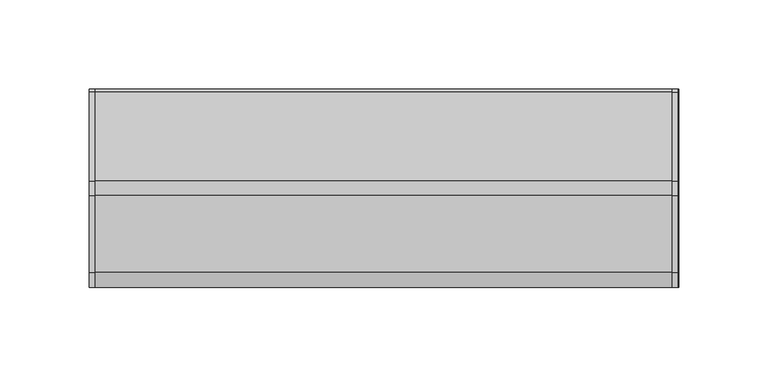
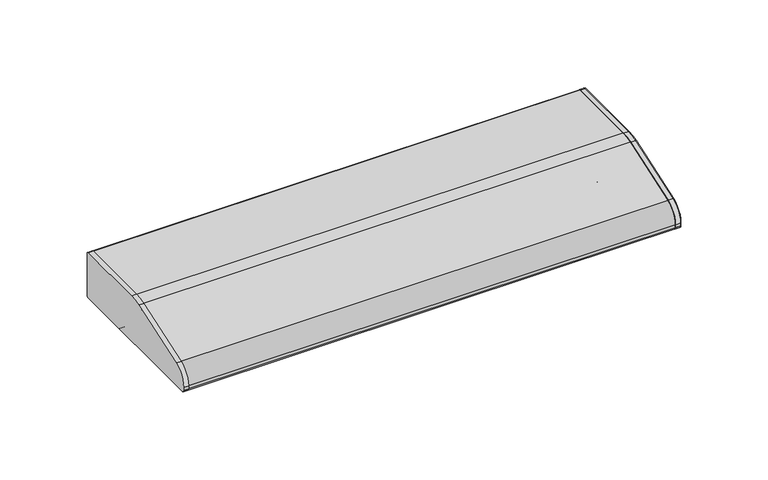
"""IFC4 building model written with IfcOpenShell, lengths in millimetres: light fixture geometry, HermanMiller_SupplementalProducts_G6136_UtilityTaskLight : AO Etho Canvas 24W."""

from ifc_helpers import new_model, si_unit, point, frame, frame_2d, origin, place, context, project, spatial, polyline, circle_curve, trimmed, segment, composite_curve, outline, extrude, source, transform, mapped, element, save


def light_fixture_623b44f8(model_context):
    return source(origin(), model_context, "Body", "SweptSolid", [
        extrude(outline(composite_curve([segment(polyline([(53.975, 1320.8), (-53.975, 1320.8)]), True, "CONTINUOUS"), segment(trimmed(circle_curve(frame_2d((-53.975, 1322.3875)), 1.5875), [point((-53.975, 1320.8))], [point((-55.5625, 1322.3875))], False, "CARTESIAN"), True, "CONTINUOUS"), segment(polyline([(-55.5625, 1322.3875), (-55.5625, 1324.4285714)]), True, "CONTINUOUS"), segment(trimmed(circle_curve(frame_2d((-42.8625, 1324.4285714)), 12.7), [point((-55.5625, 1324.4285714))], [point((-46.9814189, 1336.4420849))], False, "CARTESIAN"), True, "CONTINUOUS"), segment(polyline([(-46.9814189, 1336.4420849), (-4.0045045, 1351.177027)]), True, "CONTINUOUS"), segment(trimmed(circle_curve(frame_2d((4.2333333, 1327.15)), 25.4), [point((-4.0045045, 1351.177027))], [point((4.2333333, 1352.55))], False, "CARTESIAN"), True, "CONTINUOUS"), segment(polyline([(4.2333333, 1352.55), (53.975, 1352.55)]), True, "CONTINUOUS"), segment(trimmed(circle_curve(frame_2d((53.975, 1350.9625)), 1.5875), [point((53.975, 1352.55))], [point((55.5625, 1350.9625))], False, "CARTESIAN"), True, "CONTINUOUS"), segment(polyline([(55.5625, 1350.9625), (55.5625, 1322.3875)]), True, "CONTINUOUS"), segment(trimmed(circle_curve(frame_2d((53.975, 1322.3875)), 1.5875), [point((55.5625, 1322.3875))], [point((53.975, 1320.8))], False, "CARTESIAN"), True, "CONTINUOUS")], self_intersect=False)), frame((161.544, 0.0, 0.0), z_axis=(1.0, 0.0, 0.0), x_axis=(0.0, 1.0, 0.0)), (0.0, 0.0, 1.0), 3.175),
        extrude(outline(composite_curve([segment(trimmed(circle_curve(frame_2d((53.975, 1350.9625)), 1.5875), [point((53.975, 1352.55))], [point((55.5625, 1350.9625))], False, "CARTESIAN"), True, "CONTINUOUS"), segment(polyline([(55.5625, 1350.9625), (55.5625, 1322.3875)]), True, "CONTINUOUS"), segment(trimmed(circle_curve(frame_2d((53.975, 1322.3875)), 1.5875), [point((55.5625, 1322.3875))], [point((53.975, 1320.8))], False, "CARTESIAN"), True, "CONTINUOUS"), segment(polyline([(53.975, 1320.8), (-53.975, 1320.8)]), True, "CONTINUOUS"), segment(trimmed(circle_curve(frame_2d((-53.975, 1322.3875)), 1.5875), [point((-53.975, 1320.8))], [point((-55.5625, 1322.3875))], False, "CARTESIAN"), True, "CONTINUOUS"), segment(polyline([(-55.5625, 1322.3875), (-55.5625, 1324.4285714)]), True, "CONTINUOUS"), segment(trimmed(circle_curve(frame_2d((-42.8625, 1324.4285714)), 12.7), [point((-55.5625, 1324.4285714))], [point((-46.9814189, 1336.4420849))], False, "CARTESIAN"), True, "CONTINUOUS"), segment(polyline([(-46.9814189, 1336.4420849), (-4.0045045, 1351.177027)]), True, "CONTINUOUS"), segment(trimmed(circle_curve(frame_2d((4.2333333, 1327.15)), 25.4), [point((-4.0045045, 1351.177027))], [point((4.2333333, 1352.55))], False, "CARTESIAN"), True, "CONTINUOUS"), segment(polyline([(4.2333333, 1352.55), (53.975, 1352.55)]), True, "CONTINUOUS")], self_intersect=False)), frame((-164.719, 0.0, 0.0), z_axis=(1.0, 0.0, 0.0), x_axis=(0.0, 1.0, 0.0)), (0.0, 0.0, 1.0), 3.175),
        extrude(outline(composite_curve([segment(polyline([(55.5625, 1350.9625), (55.5625, 1322.3875)]), True, "CONTINUOUS"), segment(trimmed(circle_curve(frame_2d((53.975, 1322.3875)), 1.5875), [point((55.5625, 1322.3875))], [point((53.975, 1320.8))], False, "CARTESIAN"), True, "CONTINUOUS"), segment(polyline([(53.975, 1320.8), (19.05, 1320.8)]), True, "CONTINUOUS"), segment(trimmed(circle_curve(frame_2d((19.05, 1322.3875)), 1.5875), [point((19.05, 1320.8))], [point((17.4625, 1322.3875))], False, "CARTESIAN"), True, "CONTINUOUS"), segment(polyline([(17.4625, 1322.3875), (17.4625, 1350.9625), (4.4979167, 1350.9625)]), True, "CONTINUOUS"), segment(trimmed(circle_curve(frame_2d((4.4979167, 1325.5625)), 25.4), [point((4.4979167, 1350.9625))], [point((-3.7399212, 1349.589527))], True, "CARTESIAN"), True, "CONTINUOUS"), segment(polyline([(-3.7399212, 1349.589527), (-37.4564189, 1338.0295849)]), True, "CONTINUOUS"), segment(trimmed(circle_curve(frame_2d((-33.3375, 1326.0160714)), 12.7), [point((-37.4564189, 1338.0295849))], [point((-46.0375, 1326.0160714))], True, "CARTESIAN"), True, "CONTINUOUS"), segment(polyline([(-46.0375, 1326.0160714), (-46.0375, 1322.3875)]), True, "CONTINUOUS"), segment(trimmed(circle_curve(frame_2d((-47.625, 1322.3875)), 1.5875), [point((-46.0375, 1322.3875))], [point((-47.625, 1320.8))], False, "CARTESIAN"), True, "CONTINUOUS"), segment(polyline([(-47.625, 1320.8), (-53.975, 1320.8)]), True, "CONTINUOUS"), segment(trimmed(circle_curve(frame_2d((-53.975, 1322.3875)), 1.5875), [point((-53.975, 1320.8))], [point((-55.5625, 1322.3875))], False, "CARTESIAN"), True, "CONTINUOUS"), segment(polyline([(-55.5625, 1322.3875), (-55.5625, 1324.4285714)]), True, "CONTINUOUS"), segment(trimmed(circle_curve(frame_2d((-42.8625, 1324.4285714)), 12.7), [point((-55.5625, 1324.4285714))], [point((-46.9814189, 1336.4420849))], False, "CARTESIAN"), True, "CONTINUOUS"), segment(polyline([(-46.9814189, 1336.4420849), (-4.0045045, 1351.177027)]), True, "CONTINUOUS"), segment(trimmed(circle_curve(frame_2d((4.2333333, 1327.15)), 25.4), [point((-4.0045045, 1351.177027))], [point((4.2333333, 1352.55))], False, "CARTESIAN"), True, "CONTINUOUS"), segment(polyline([(4.2333333, 1352.55), (53.975, 1352.55)]), True, "CONTINUOUS"), segment(trimmed(circle_curve(frame_2d((53.975, 1350.9625)), 1.5875), [point((53.975, 1352.55))], [point((55.5625, 1350.9625))], False, "CARTESIAN"), True, "CONTINUOUS")], self_intersect=False)), frame((-164.719, 0.0, 0.0), z_axis=(1.0, 0.0, 0.0), x_axis=(0.0, 1.0, 0.0)), (0.0, 0.0, 1.0), 329.9040011),
        extrude(outline(composite_curve([segment(trimmed(circle_curve(frame_2d((1.5875, 1338.2625)), 9.525), [point((-7.9375, 1338.2625))], [point((11.1125, 1338.2625))], False, "CARTESIAN"), True, "CONTINUOUS"), segment(trimmed(circle_curve(frame_2d((1.5875, 1338.2625)), 9.525), [point((11.1125, 1338.2625))], [point((-7.9375, 1338.2625))], False, "CARTESIAN"), True, "CONTINUOUS")], self_intersect=False)), frame((139.319, 0.0, 0.0), z_axis=(1.0, 0.0, 0.0), x_axis=(0.0, 1.0, 0.0)), (0.0, 0.0, 1.0), 12.7),
        extrude(outline(composite_curve([segment(trimmed(circle_curve(frame_2d((1.5875, 1338.2625)), 9.525), [point((-7.9375, 1338.2625))], [point((11.1125, 1338.2625))], False, "CARTESIAN"), True, "CONTINUOUS"), segment(trimmed(circle_curve(frame_2d((1.5875, 1338.2625)), 9.525), [point((11.1125, 1338.2625))], [point((-7.9375, 1338.2625))], False, "CARTESIAN"), True, "CONTINUOUS")], self_intersect=False)), frame((-152.019, 0.0, 0.0), z_axis=(1.0, 0.0, 0.0), x_axis=(0.0, 1.0, 0.0)), (0.0, 0.0, 1.0), 12.7),
        extrude(outline(composite_curve([segment(trimmed(circle_curve(frame_2d((1.5875, 1338.2625)), 9.525), [point((-7.9375, 1338.2625))], [point((11.1125, 1338.2625))], False, "CARTESIAN"), True, "CONTINUOUS"), segment(trimmed(circle_curve(frame_2d((1.5875, 1338.2625)), 9.525), [point((11.1125, 1338.2625))], [point((-7.9375, 1338.2625))], False, "CARTESIAN"), True, "CONTINUOUS")], self_intersect=False)), frame((-139.319, 0.0, 0.0), z_axis=(1.0, 0.0, 0.0), x_axis=(0.0, 1.0, 0.0)), (0.0, 0.0, 1.0), 278.638),
        extrude(outline(composite_curve([segment(polyline([(17.4625, 1323.975), (-46.0375, 1323.975), (-46.0375, 1326.0160714)]), True, "CONTINUOUS"), segment(trimmed(circle_curve(frame_2d((-33.3375, 1326.0160714)), 12.7), [point((-46.0375, 1326.0160714))], [point((-37.4564189, 1338.0295849))], False, "CARTESIAN"), True, "CONTINUOUS"), segment(polyline([(-37.4564189, 1338.0295849), (-3.7399212, 1349.589527)]), True, "CONTINUOUS"), segment(trimmed(circle_curve(frame_2d((4.4979167, 1325.5625)), 25.4), [point((-3.7399212, 1349.589527))], [point((4.4979167, 1350.9625))], False, "CARTESIAN"), True, "CONTINUOUS"), segment(polyline([(4.4979167, 1350.9625), (17.4625, 1350.9625), (17.4625, 1323.975)]), True, "CONTINUOUS")], self_intersect=False)), frame((152.019, 0.0, 0.0), z_axis=(1.0, 0.0, 0.0), x_axis=(0.0, 1.0, 0.0)), (0.0, 0.0, 1.0), 9.525),
        extrude(outline(composite_curve([segment(polyline([(17.4625, 1323.975), (-46.0375, 1323.975), (-46.0375, 1326.0160714)]), True, "CONTINUOUS"), segment(trimmed(circle_curve(frame_2d((-33.3375, 1326.0160714)), 12.7), [point((-46.0375, 1326.0160714))], [point((-37.4564189, 1338.0295849))], False, "CARTESIAN"), True, "CONTINUOUS"), segment(polyline([(-37.4564189, 1338.0295849), (-3.7399212, 1349.589527)]), True, "CONTINUOUS"), segment(trimmed(circle_curve(frame_2d((4.4979167, 1325.5625)), 25.4), [point((-3.7399212, 1349.589527))], [point((4.4979167, 1350.9625))], False, "CARTESIAN"), True, "CONTINUOUS"), segment(polyline([(4.4979167, 1350.9625), (17.4625, 1350.9625), (17.4625, 1323.975)]), True, "CONTINUOUS")], self_intersect=False)), frame((-161.544, 0.0, 0.0), z_axis=(1.0, 0.0, 0.0), x_axis=(0.0, 1.0, 0.0)), (0.0, 0.0, 1.0), 9.525),
    ])


if __name__ == "__main__":
    model = new_model("IFC4")
    model_context = context("Model", 3, world=origin())
    ifc_project = project(units=[si_unit("LENGTHUNIT", "METRE", prefix="MILLI")], contexts=[model_context])
    site = spatial("IfcSite", under=ifc_project)
    building = spatial("IfcBuilding", under=site)
    placement = place(None, origin())
    light_fixture_shape = light_fixture_623b44f8(model_context)
    element("IfcLightFixture", 1, ObjectType="HermanMiller_SupplementalProducts_G6136_UtilityTaskLight : AO Etho Canvas 24W", at=placement, inside=building, context=model_context, shape_type="MappedRepresentation", body=[
        mapped(light_fixture_shape, transform((0.0, 0.0, 0.0), x_axis=(1.0, 0.0, 0.0), y_axis=(0.0, 1.0, 0.0), z_axis=(0.0, 0.0, 1.0))),
    ])
    save(model, "model.ifc")
